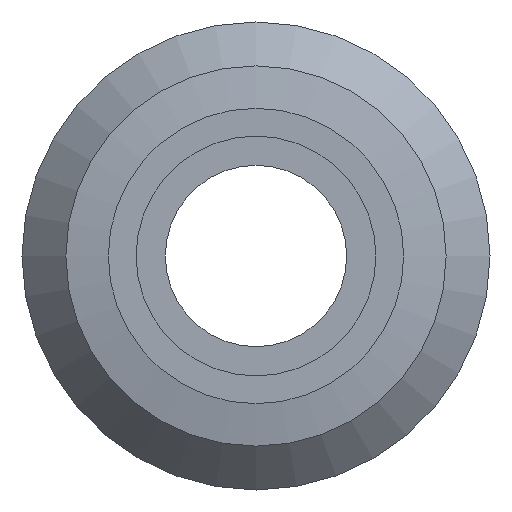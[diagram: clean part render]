
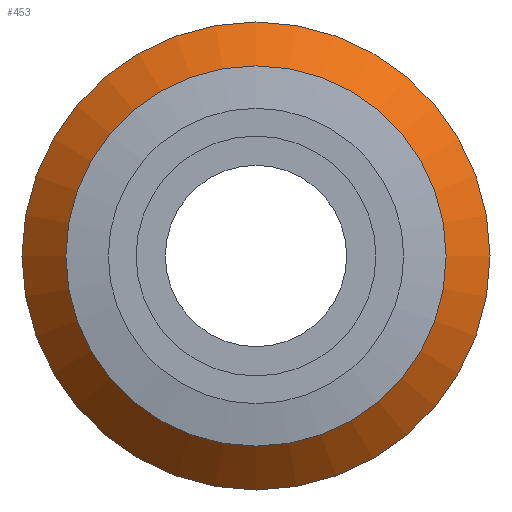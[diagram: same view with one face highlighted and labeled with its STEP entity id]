
A CAD part, front view. The second image highlights one B-rep face of the part: STEP entity #453.
In plain terms, the highlighted conical face has half-angle 45 degrees and reference radius 7.25 mm.
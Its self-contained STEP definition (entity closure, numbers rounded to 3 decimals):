
#411=CARTESIAN_POINT('',(-6.5,2.7,0.0));
#412=VERTEX_POINT('',#411);
#413=CARTESIAN_POINT('',(0.0,2.7,0.0));
#414=DIRECTION('',(0.0,1.0,0.0));
#415=DIRECTION('',(-1.0,0.0,0.0));
#416=AXIS2_PLACEMENT_3D('',#413,#414,#415);
#417=CIRCLE('',#416,6.5);
#418=EDGE_CURVE('',#412,#412,#417,.T.);
#434=CARTESIAN_POINT('',(0.0,3.45,0.0));
#435=DIRECTION('',(0.0,1.0,0.0));
#436=DIRECTION('',(-1.0,0.0,0.0));
#437=AXIS2_PLACEMENT_3D('',#434,#435,#436);
#438=CONICAL_SURFACE('',#437,7.25,45.);
#439=CARTESIAN_POINT('',(-8.0,4.2,0.0));
#440=VERTEX_POINT('',#439);
#441=CARTESIAN_POINT('',(0.0,4.2,0.0));
#442=DIRECTION('',(0.0,1.0,0.0));
#443=DIRECTION('',(-1.0,0.0,0.0));
#444=AXIS2_PLACEMENT_3D('',#441,#442,#443);
#445=CIRCLE('',#444,8.0);
#446=EDGE_CURVE('',#440,#440,#445,.T.);
#447=ORIENTED_EDGE('',*,*,#446,.F.);
#448=EDGE_LOOP('',(#447));
#449=FACE_OUTER_BOUND('',#448,.T.);
#450=ORIENTED_EDGE('',*,*,#418,.T.);
#451=EDGE_LOOP('',(#450));
#452=FACE_BOUND('',#451,.T.);
#453=ADVANCED_FACE('',(#449,#452),#438,.T.);
